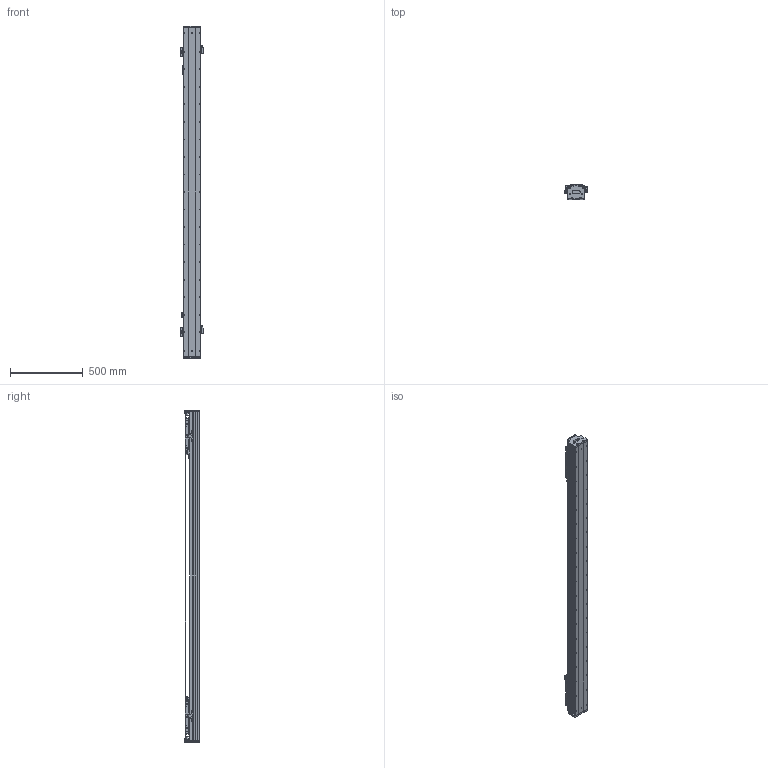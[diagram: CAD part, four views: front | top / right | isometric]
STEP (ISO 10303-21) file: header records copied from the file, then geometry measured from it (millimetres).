
FILE_DESCRIPTION (( 'STEP AP203' ), '1' );
FILE_NAME ('DKW119-2×C3-W060(T1640-L005-0.2).STEP', '2021-09-18T01:06:57', ( '微软用户' ), ( '微软中国' ), 'SwSTEP 2.0', 'SolidWorks 2018', '' );
FILE_SCHEMA (( 'CONFIG_CONTROL_DESIGN' ));
Length unit declared in the file: millimetre
Products named in the file (26): EE_SX674A; 嫖萇羲壽蚾饜极A; 12018-0001-002-00 詩湍; 12018-0001-001-00 菁釱; DKW119-2×C3-W060(T1640-L005-0.2); DKW-SG-GYP-H-00 嫖萇覜茼え; 砎蝶猾沭; MSB15-DG-U; RUS嫖掑喜; 12160-0000-003-00 DKW120詩湍嶺輸; DKW119-RU-DTJ-00 RU2黍杅芛盓殤; Ru2; 12160-0000-004-00  DKW120詩湍揤輸; 电机出线 ^DKW119-2×C3-W060(T1640-L005-0.2); CKM03-W060_00; DKW119 单轴模组-拉钢带组件; CKMA01-W060-TRLxxx; DKW-DG-XJ-Z-00 笢潔滅袉砎蝶; pm-y65; DKW-HXJ-JY-00 遣喳砎蝶; DKW-GYP-ZJ-00 笢潔嫖萇覜茼え; 10980-0001-003-00 嫖萇羲壽嘐隅釱; 11062-0001-004-00 DKW119傷啣; DKW-KGZ-ZJ-00 中间光电开关支架; 嫖萇羲壽蚾饜极; 06652-0001-004-00 DKW120嶺輸菜輸
Assembly tree (45 placements, depth 3):
  DKW119-2×C3-W060(T1640-L005-0.2)
    12018-0001-001-00 菁釱
    MSB15-DG-U  x2
    DKW119-RU-DTJ-00 RU2黍杅芛盓殤  x2
    电机出线 ^DKW119-2×C3-W060(T1640-L005-0.2)  x2
    CKMA01-W060-TRLxxx
    DKW119 单轴模组-拉钢带组件
      DKW-HXJ-JY-00 遣喳砎蝶  x4
      11062-0001-004-00 DKW119傷啣  x2
      06652-0001-004-00 DKW120嶺輸菜輸  x4
      12018-0001-002-00 詩湍
      砎蝶猾沭  x2
      12160-0000-003-00 DKW120詩湍嶺輸  x2
      12160-0000-004-00  DKW120詩湍揤輸  x2
    嫖萇羲壽蚾饜极
      pm-y65  x2
      10980-0001-003-00 嫖萇羲壽嘐隅釱
    嫖萇羲壽蚾饜极A
      pm-y65  x2
      10980-0001-003-00 嫖萇羲壽嘐隅釱
    DKW-SG-GYP-H-00 嫖萇覜茼え  x2
    RUS嫖掑喜
    Ru2  x2
    CKM03-W060_00  x2
    DKW-DG-XJ-Z-00 笢潔滅袉砎蝶
    DKW-GYP-ZJ-00 笢潔嫖萇覜茼え
    DKW-KGZ-ZJ-00 中间光电开关支架
    EE_SX674A
Bounding box: 154.3 x 99 x 2276 mm (x, y, z)
Volume: 10929383.1 mm3; surface area: 3417652.4 mm2
Topology: 62 solids, 160 shells, 6633 faces, 17630 edges, 11290 vertices
Faces by surface type: plane 3532, cylinder 2057, cone 550, bspline 494
Entity records: 136112 total; most frequent: CARTESIAN_POINT 44531, ORIENTED_EDGE 18363, DIRECTION 17760, EDGE_CURVE 9222, VERTEX_POINT 6046, AXIS2_PLACEMENT_3D 6024, LINE 5712, VECTOR 5712
